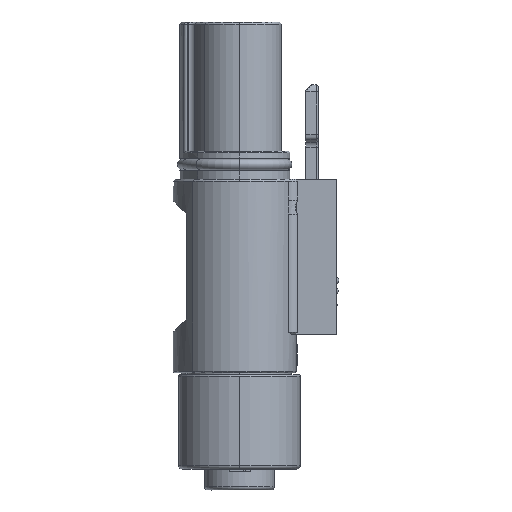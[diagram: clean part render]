
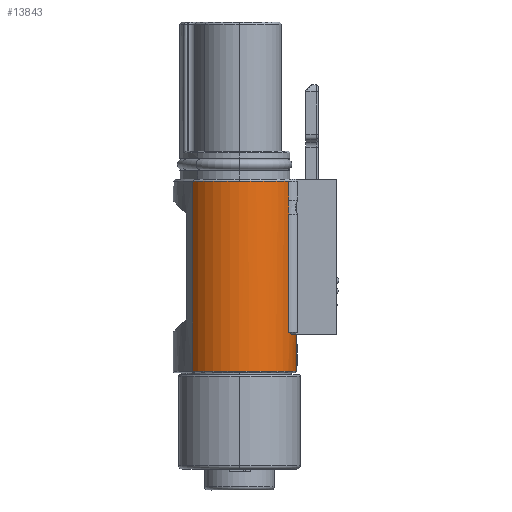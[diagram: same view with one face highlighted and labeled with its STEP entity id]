
A CAD part, left-side view. The second image highlights one B-rep face of the part: STEP entity #13843.
In plain terms, the highlighted cylindrical face has radius 8.1 mm (diameter 16.2 mm), a partial arc.
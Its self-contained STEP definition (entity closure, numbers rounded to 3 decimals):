
#298 = B_SPLINE_CURVE_WITH_KNOTS ( 'NONE', 3,
 ( #8192, #17064, #11207, #2223, #12695, #3722, #14183, #5232, #15657, #6740 ),
 .UNSPECIFIED., .F., .F.,
 ( 4, 2, 2, 2, 4 ),
 ( 0., 0.25, 0.5, 0.75, 1. ),
 .UNSPECIFIED. ) ;
#823 = DIRECTION ( 'NONE',  ( 0., 0., -1. ) ) ;
#912 = DIRECTION ( 'NONE',  ( 1., 0., 0. ) ) ;
#1139 = CARTESIAN_POINT ( 'NONE',  ( -13.72, -6.352, -31.116 ) ) ;
#1305 = VECTOR ( 'NONE', #13558, 1000. ) ;
#1506 = CARTESIAN_POINT ( 'NONE',  ( -18.502, 1.039, -36.5 ) ) ;
#1603 = CARTESIAN_POINT ( 'NONE',  ( -14.41, -6., -79.345 ) ) ;
#1786 = AXIS2_PLACEMENT_3D ( 'NONE', #9240, #3324, #9364 ) ;
#1841 = CARTESIAN_POINT ( 'NONE',  ( -14.41, -6., -30.9 ) ) ;
#2152 = EDGE_CURVE ( 'NONE', #3069, #12040, #6758, .T. ) ;
#2223 = CARTESIAN_POINT ( 'NONE',  ( -14.378, -6.018, -13.275 ) ) ;
#2238 = LINE ( 'NONE', #1603, #1305 ) ;
#2435 = CARTESIAN_POINT ( 'NONE',  ( -13.592, -6.407, -31.2 ) ) ;
#2481 = VERTEX_POINT ( 'NONE', #15304 ) ;
#2506 = CARTESIAN_POINT ( 'NONE',  ( -13.851, -6.292, -31.042 ) ) ;
#2643 = EDGE_CURVE ( 'NONE', #11473, #18953, #16006, .T. ) ;
#2806 = DIRECTION ( 'NONE',  ( 0., 0., -1. ) ) ;
#3036 = ORIENTED_EDGE ( 'NONE', *, *, #2152, .T. ) ;
#3069 = VERTEX_POINT ( 'NONE', #3615 ) ;
#3291 = DIRECTION ( 'NONE',  ( 0., 0., -1. ) ) ;
#3322 = EDGE_CURVE ( 'NONE', #12269, #11473, #14352, .T. ) ;
#3324 = DIRECTION ( 'NONE',  ( 0., 0., 1. ) ) ;
#3439 = EDGE_CURVE ( 'NONE', #6930, #12269, #10631, .T. ) ;
#3542 = AXIS2_PLACEMENT_3D ( 'NONE', #9788, #823, #11301 ) ;
#3615 = CARTESIAN_POINT ( 'NONE',  ( -13.592, -6.407, -31.2 ) ) ;
#3711 = DIRECTION ( 'NONE',  ( 0., 0., 1. ) ) ;
#3722 = CARTESIAN_POINT ( 'NONE',  ( -14.371, -6.022, -12.891 ) ) ;
#3784 = CARTESIAN_POINT ( 'NONE',  ( -10.402, 1.039, -36.5 ) ) ;
#3810 = CARTESIAN_POINT ( 'NONE',  ( -14.958, 7.736, -79.345 ) ) ;
#3900 = ORIENTED_EDGE ( 'NONE', *, *, #4376, .T. ) ;
#3935 = CARTESIAN_POINT ( 'NONE',  ( -14.41, -6., -9.3 ) ) ;
#4376 = EDGE_CURVE ( 'NONE', #9831, #3069, #18796, .T. ) ;
#4412 = AXIS2_PLACEMENT_3D ( 'NONE', #12277, #3291, #13769 ) ;
#4880 = EDGE_LOOP ( 'NONE', ( #7248, #6127, #8050, #11332, #11807, #8228, #14594, #16233, #13005, #6951, #3900, #3036 ) ) ;
#4940 = CARTESIAN_POINT ( 'NONE',  ( -10.402, 1.039, -31.2 ) ) ;
#4999 = DIRECTION ( 'NONE',  ( 0., 0., 1. ) ) ;
#5205 = EDGE_CURVE ( 'NONE', #6125, #13483, #2238, .T. ) ;
#5232 = CARTESIAN_POINT ( 'NONE',  ( -14.404, -6.004, -12.287 ) ) ;
#5492 = CARTESIAN_POINT ( 'NONE',  ( -18.502, 1.039, -9.3 ) ) ;
#5924 = EDGE_CURVE ( 'NONE', #12040, #2481, #16894, .T. ) ;
#6125 = VERTEX_POINT ( 'NONE', #11653 ) ;
#6127 = ORIENTED_EDGE ( 'NONE', *, *, #17107, .T. ) ;
#6446 = DIRECTION ( 'NONE',  ( 1., 0., 0. ) ) ;
#6740 = CARTESIAN_POINT ( 'NONE',  ( -14.41, -6., -12.011 ) ) ;
#6758 = B_SPLINE_CURVE_WITH_KNOTS ( 'NONE', 3,
 ( #2435, #1139, #2506, #15802, #17442, #11293 ),
 .UNSPECIFIED., .F., .F.,
 ( 4, 2, 4 ),
 ( 0., 0., 0.001 ),
 .UNSPECIFIED. ) ;
#6853 = CARTESIAN_POINT ( 'NONE',  ( -14.958, 7.736, -36.5 ) ) ;
#6930 = VERTEX_POINT ( 'NONE', #14477 ) ;
#6951 = ORIENTED_EDGE ( 'NONE', *, *, #7301, .T. ) ;
#7248 = ORIENTED_EDGE ( 'NONE', *, *, #5924, .T. ) ;
#7301 = EDGE_CURVE ( 'NONE', #14034, #9831, #18343, .T. ) ;
#7646 = FACE_OUTER_BOUND ( 'NONE', #4880, .T. ) ;
#8050 = ORIENTED_EDGE ( 'NONE', *, *, #5205, .T. ) ;
#8192 = CARTESIAN_POINT ( 'NONE',  ( -14.41, -6., -13.989 ) ) ;
#8228 = ORIENTED_EDGE ( 'NONE', *, *, #3439, .T. ) ;
#8509 = CIRCLE ( 'NONE', #3542, 8.1 ) ;
#8586 = EDGE_CURVE ( 'NONE', #13483, #17226, #8509, .T. ) ;
#9240 = CARTESIAN_POINT ( 'NONE',  ( -10.402, 1.039, -79.345 ) ) ;
#9364 = DIRECTION ( 'NONE',  ( 1., 0., 0. ) ) ;
#9762 = CYLINDRICAL_SURFACE ( 'NONE', #1786, 8.1 ) ;
#9788 = CARTESIAN_POINT ( 'NONE',  ( -10.402, 1.039, -9.3 ) ) ;
#9831 = VERTEX_POINT ( 'NONE', #14002 ) ;
#9877 = DIRECTION ( 'NONE',  ( 0., 0., -1. ) ) ;
#9952 = CARTESIAN_POINT ( 'NONE',  ( -10.402, -7.061, -31.2 ) ) ;
#10167 = AXIS2_PLACEMENT_3D ( 'NONE', #11876, #11849, #11804 ) ;
#10619 = AXIS2_PLACEMENT_3D ( 'NONE', #18683, #9877, #912 ) ;
#10631 = LINE ( 'NONE', #3810, #18453 ) ;
#11207 = CARTESIAN_POINT ( 'NONE',  ( -14.404, -6.004, -13.714 ) ) ;
#11279 = DIRECTION ( 'NONE',  ( 0., 0., 1. ) ) ;
#11293 = CARTESIAN_POINT ( 'NONE',  ( -14.41, -6., -30.9 ) ) ;
#11301 = DIRECTION ( 'NONE',  ( 1., 0., 0. ) ) ;
#11332 = ORIENTED_EDGE ( 'NONE', *, *, #8586, .T. ) ;
#11473 = VERTEX_POINT ( 'NONE', #1506 ) ;
#11653 = CARTESIAN_POINT ( 'NONE',  ( -14.41, -6., -12.011 ) ) ;
#11733 = VECTOR ( 'NONE', #4999, 1000. ) ;
#11804 = DIRECTION ( 'NONE',  ( 1., 0., 0. ) ) ;
#11807 = ORIENTED_EDGE ( 'NONE', *, *, #17529, .T. ) ;
#11849 = DIRECTION ( 'NONE',  ( 0., 0., 1. ) ) ;
#11876 = CARTESIAN_POINT ( 'NONE',  ( -10.402, 1.039, -36.5 ) ) ;
#12040 = VERTEX_POINT ( 'NONE', #1841 ) ;
#12269 = VERTEX_POINT ( 'NONE', #6853 ) ;
#12277 = CARTESIAN_POINT ( 'NONE',  ( -10.402, 1.039, -31.2 ) ) ;
#12684 = CARTESIAN_POINT ( 'NONE',  ( -14.41, -6., -79.345 ) ) ;
#12695 = CARTESIAN_POINT ( 'NONE',  ( -14.371, -6.022, -13.109 ) ) ;
#12991 = VECTOR ( 'NONE', #3711, 1000. ) ;
#13005 = ORIENTED_EDGE ( 'NONE', *, *, #18513, .T. ) ;
#13483 = VERTEX_POINT ( 'NONE', #3935 ) ;
#13558 = DIRECTION ( 'NONE',  ( 0., 0., 1. ) ) ;
#13769 = DIRECTION ( 'NONE',  ( 1., 0., 0. ) ) ;
#13843 = ADVANCED_FACE ( 'NONE', ( #7646 ), #9762, .T. ) ;
#13952 = CARTESIAN_POINT ( 'NONE',  ( -10.402, -7.061, -79.345 ) ) ;
#14002 = CARTESIAN_POINT ( 'NONE',  ( -10.802, -7.051, -31.2 ) ) ;
#14034 = VERTEX_POINT ( 'NONE', #9952 ) ;
#14183 = CARTESIAN_POINT ( 'NONE',  ( -14.378, -6.018, -12.725 ) ) ;
#14352 = CIRCLE ( 'NONE', #14653, 8.1 ) ;
#14477 = CARTESIAN_POINT ( 'NONE',  ( -14.958, 7.736, -9.3 ) ) ;
#14594 = ORIENTED_EDGE ( 'NONE', *, *, #3322, .T. ) ;
#14653 = AXIS2_PLACEMENT_3D ( 'NONE', #3784, #11279, #18590 ) ;
#15025 = CARTESIAN_POINT ( 'NONE',  ( -10.402, -7.061, -36.5 ) ) ;
#15220 = AXIS2_PLACEMENT_3D ( 'NONE', #4940, #15358, #6446 ) ;
#15304 = CARTESIAN_POINT ( 'NONE',  ( -14.41, -6., -13.989 ) ) ;
#15358 = DIRECTION ( 'NONE',  ( 0., 0., -1. ) ) ;
#15650 = LINE ( 'NONE', #13952, #11733 ) ;
#15657 = CARTESIAN_POINT ( 'NONE',  ( -14.41, -6., -12.122 ) ) ;
#15802 = CARTESIAN_POINT ( 'NONE',  ( -14.122, -6.158, -30.934 ) ) ;
#16006 = CIRCLE ( 'NONE', #10167, 8.1 ) ;
#16233 = ORIENTED_EDGE ( 'NONE', *, *, #2643, .T. ) ;
#16894 = LINE ( 'NONE', #12684, #12991 ) ;
#17064 = CARTESIAN_POINT ( 'NONE',  ( -14.41, -6., -13.878 ) ) ;
#17107 = EDGE_CURVE ( 'NONE', #2481, #6125, #298, .T. ) ;
#17226 = VERTEX_POINT ( 'NONE', #5492 ) ;
#17442 = CARTESIAN_POINT ( 'NONE',  ( -14.267, -6.082, -30.9 ) ) ;
#17529 = EDGE_CURVE ( 'NONE', #17226, #6930, #17982, .T. ) ;
#17982 = CIRCLE ( 'NONE', #10619, 8.1 ) ;
#18343 = CIRCLE ( 'NONE', #15220, 8.1 ) ;
#18453 = VECTOR ( 'NONE', #2806, 1000. ) ;
#18513 = EDGE_CURVE ( 'NONE', #18953, #14034, #15650, .T. ) ;
#18590 = DIRECTION ( 'NONE',  ( 1., 0., 0. ) ) ;
#18683 = CARTESIAN_POINT ( 'NONE',  ( -10.402, 1.039, -9.3 ) ) ;
#18796 = CIRCLE ( 'NONE', #4412, 8.1 ) ;
#18953 = VERTEX_POINT ( 'NONE', #15025 ) ;
